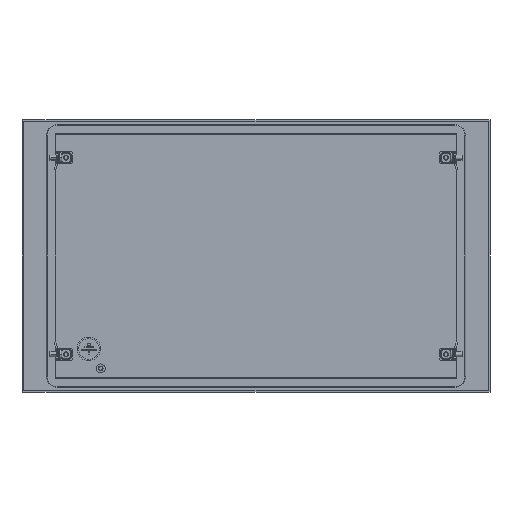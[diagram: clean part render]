
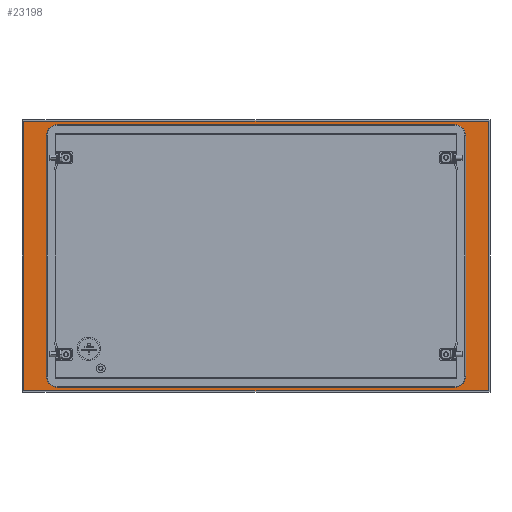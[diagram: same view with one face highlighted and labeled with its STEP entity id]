
A CAD part, left-side view. The second image highlights one B-rep face of the part: STEP entity #23198.
In plain terms, the highlighted planar face has unit normal (-1, 0, 0).
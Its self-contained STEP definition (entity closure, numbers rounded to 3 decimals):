
#24 = CARTESIAN_POINT ( 'NONE',  ( -2., -295.5, 0. ) ) ;
#43 = AXIS2_PLACEMENT_3D ( 'NONE', #19087, #17056, #24825 ) ;
#692 = CARTESIAN_POINT ( 'NONE',  ( -2., -266.5, 153. ) ) ;
#731 = EDGE_CURVE ( 'NONE', #13444, #17915, #10768, .T. ) ;
#763 = LINE ( 'NONE', #10516, #11081 ) ;
#1078 = VERTEX_POINT ( 'NONE', #12153 ) ;
#1155 = DIRECTION ( 'NONE',  ( 0., 0., -1. ) ) ;
#1158 = VERTEX_POINT ( 'NONE', #21959 ) ;
#1209 = EDGE_CURVE ( 'NONE', #14507, #6720, #12656, .T. ) ;
#1444 = PLANE ( 'NONE',  #43 ) ;
#1572 = FACE_BOUND ( 'NONE', #7735, .T. ) ;
#2423 = CARTESIAN_POINT ( 'NONE',  ( -2., -252.5, 167. ) ) ;
#2650 = AXIS2_PLACEMENT_3D ( 'NONE', #6143, #17269, #7555 ) ;
#2666 = ORIENTED_EDGE ( 'NONE', *, *, #25284, .F. ) ;
#2853 = CIRCLE ( 'NONE', #17147, 14. ) ;
#3535 = VERTEX_POINT ( 'NONE', #7401 ) ;
#3996 = CARTESIAN_POINT ( 'NONE',  ( -2., -295.5, -171. ) ) ;
#4065 = CARTESIAN_POINT ( 'NONE',  ( -2., -252.5, 153. ) ) ;
#4176 = EDGE_CURVE ( 'NONE', #5029, #15283, #16285, .T. ) ;
#4207 = CARTESIAN_POINT ( 'NONE',  ( -2., -266.5, -153. ) ) ;
#4584 = EDGE_CURVE ( 'NONE', #1078, #22206, #763, .T. ) ;
#4848 = CARTESIAN_POINT ( 'NONE',  ( -2., 266.5, -153. ) ) ;
#4853 = CARTESIAN_POINT ( 'NONE',  ( -2., 252.5, -167. ) ) ;
#5029 = VERTEX_POINT ( 'NONE', #20176 ) ;
#5803 = DIRECTION ( 'NONE',  ( -1., 0., 0. ) ) ;
#5867 = DIRECTION ( 'NONE',  ( 0., -1., 0. ) ) ;
#6059 = VECTOR ( 'NONE', #23781, 1000. ) ;
#6143 = CARTESIAN_POINT ( 'NONE',  ( -2., -252.5, -153. ) ) ;
#6720 = VERTEX_POINT ( 'NONE', #8847 ) ;
#6792 = EDGE_CURVE ( 'NONE', #17915, #1078, #21001, .T. ) ;
#7401 = CARTESIAN_POINT ( 'NONE',  ( -2., -295.5, 171. ) ) ;
#7406 = ORIENTED_EDGE ( 'NONE', *, *, #4584, .T. ) ;
#7555 = DIRECTION ( 'NONE',  ( 0., -1., 0. ) ) ;
#7609 = EDGE_CURVE ( 'NONE', #16842, #3535, #23669, .T. ) ;
#7735 = EDGE_LOOP ( 'NONE', ( #2666, #23969, #18067, #7406, #12815, #20380, #8718, #11378 ) ) ;
#7960 = CIRCLE ( 'NONE', #14508, 14. ) ;
#8718 = ORIENTED_EDGE ( 'NONE', *, *, #23083, .F. ) ;
#8847 = CARTESIAN_POINT ( 'NONE',  ( -2., 266.5, 153. ) ) ;
#8864 = EDGE_CURVE ( 'NONE', #22206, #14507, #7960, .T. ) ;
#9037 = CARTESIAN_POINT ( 'NONE',  ( -2., 0., -171. ) ) ;
#10034 = DIRECTION ( 'NONE',  ( 0., 0., 1. ) ) ;
#10105 = DIRECTION ( 'NONE',  ( -1., 0., 0. ) ) ;
#10154 = CARTESIAN_POINT ( 'NONE',  ( -2., 295.5, -171. ) ) ;
#10193 = DIRECTION ( 'NONE',  ( 0., 0., -1. ) ) ;
#10516 = CARTESIAN_POINT ( 'NONE',  ( -2., -252.5, -167. ) ) ;
#10768 = LINE ( 'NONE', #16014, #6059 ) ;
#10945 = VECTOR ( 'NONE', #12998, 1000. ) ;
#11081 = VECTOR ( 'NONE', #20209, 1000. ) ;
#11114 = ORIENTED_EDGE ( 'NONE', *, *, #19764, .T. ) ;
#11211 = LINE ( 'NONE', #9037, #10945 ) ;
#11260 = VECTOR ( 'NONE', #10034, 1000. ) ;
#11313 = FACE_OUTER_BOUND ( 'NONE', #18388, .T. ) ;
#11378 = ORIENTED_EDGE ( 'NONE', *, *, #22011, .F. ) ;
#11481 = CIRCLE ( 'NONE', #22902, 14. ) ;
#11697 = DIRECTION ( 'NONE',  ( 0., 0., 1. ) ) ;
#11928 = VERTEX_POINT ( 'NONE', #22034 ) ;
#12153 = CARTESIAN_POINT ( 'NONE',  ( -2., -252.5, -167. ) ) ;
#12296 = DIRECTION ( 'NONE',  ( 0., 1., 0. ) ) ;
#12656 = LINE ( 'NONE', #12777, #17503 ) ;
#12712 = CARTESIAN_POINT ( 'NONE',  ( -2., 295.5, 0. ) ) ;
#12777 = CARTESIAN_POINT ( 'NONE',  ( -2., 266.5, -153. ) ) ;
#12815 = ORIENTED_EDGE ( 'NONE', *, *, #8864, .T. ) ;
#12998 = DIRECTION ( 'NONE',  ( 0., -1., 0. ) ) ;
#13444 = VERTEX_POINT ( 'NONE', #692 ) ;
#13498 = VECTOR ( 'NONE', #1155, 1000. ) ;
#14210 = LINE ( 'NONE', #2423, #22430 ) ;
#14507 = VERTEX_POINT ( 'NONE', #4848 ) ;
#14508 = AXIS2_PLACEMENT_3D ( 'NONE', #23709, #21920, #10193 ) ;
#14786 = VECTOR ( 'NONE', #16808, 1000. ) ;
#14895 = CARTESIAN_POINT ( 'NONE',  ( -2., 0., 171. ) ) ;
#15283 = VERTEX_POINT ( 'NONE', #10154 ) ;
#16014 = CARTESIAN_POINT ( 'NONE',  ( -2., -266.5, 0. ) ) ;
#16285 = LINE ( 'NONE', #12712, #13498 ) ;
#16652 = EDGE_CURVE ( 'NONE', #3535, #5029, #17059, .T. ) ;
#16808 = DIRECTION ( 'NONE',  ( 0., 1., 0. ) ) ;
#16842 = VERTEX_POINT ( 'NONE', #3996 ) ;
#17056 = DIRECTION ( 'NONE',  ( 1., 0., 0. ) ) ;
#17059 = LINE ( 'NONE', #14895, #14786 ) ;
#17147 = AXIS2_PLACEMENT_3D ( 'NONE', #4065, #10105, #5867 ) ;
#17269 = DIRECTION ( 'NONE',  ( 1., 0., 0. ) ) ;
#17307 = CARTESIAN_POINT ( 'NONE',  ( -2., 252.5, 153. ) ) ;
#17503 = VECTOR ( 'NONE', #18628, 1000. ) ;
#17915 = VERTEX_POINT ( 'NONE', #4207 ) ;
#18031 = ORIENTED_EDGE ( 'NONE', *, *, #4176, .T. ) ;
#18067 = ORIENTED_EDGE ( 'NONE', *, *, #6792, .T. ) ;
#18388 = EDGE_LOOP ( 'NONE', ( #21306, #20626, #18031, #11114 ) ) ;
#18628 = DIRECTION ( 'NONE',  ( 0., 0., 1. ) ) ;
#19087 = CARTESIAN_POINT ( 'NONE',  ( -2., 0., 0. ) ) ;
#19764 = EDGE_CURVE ( 'NONE', #15283, #16842, #11211, .T. ) ;
#20176 = CARTESIAN_POINT ( 'NONE',  ( -2., 295.5, 171. ) ) ;
#20209 = DIRECTION ( 'NONE',  ( 0., 1., 0. ) ) ;
#20380 = ORIENTED_EDGE ( 'NONE', *, *, #1209, .T. ) ;
#20626 = ORIENTED_EDGE ( 'NONE', *, *, #16652, .T. ) ;
#21001 = CIRCLE ( 'NONE', #2650, 14. ) ;
#21306 = ORIENTED_EDGE ( 'NONE', *, *, #7609, .T. ) ;
#21920 = DIRECTION ( 'NONE',  ( 1., 0., 0. ) ) ;
#21959 = CARTESIAN_POINT ( 'NONE',  ( -2., -252.5, 167. ) ) ;
#22011 = EDGE_CURVE ( 'NONE', #1158, #11928, #14210, .T. ) ;
#22034 = CARTESIAN_POINT ( 'NONE',  ( -2., 252.5, 167. ) ) ;
#22206 = VERTEX_POINT ( 'NONE', #4853 ) ;
#22430 = VECTOR ( 'NONE', #12296, 1000. ) ;
#22902 = AXIS2_PLACEMENT_3D ( 'NONE', #17307, #5803, #11697 ) ;
#23083 = EDGE_CURVE ( 'NONE', #11928, #6720, #11481, .T. ) ;
#23198 = ADVANCED_FACE ( 'NONE', ( #11313, #1572 ), #1444, .F. ) ;
#23669 = LINE ( 'NONE', #24, #11260 ) ;
#23709 = CARTESIAN_POINT ( 'NONE',  ( -2., 252.5, -153. ) ) ;
#23781 = DIRECTION ( 'NONE',  ( 0., 0., -1. ) ) ;
#23969 = ORIENTED_EDGE ( 'NONE', *, *, #731, .T. ) ;
#24825 = DIRECTION ( 'NONE',  ( 0., 0., 1. ) ) ;
#25284 = EDGE_CURVE ( 'NONE', #13444, #1158, #2853, .T. ) ;
